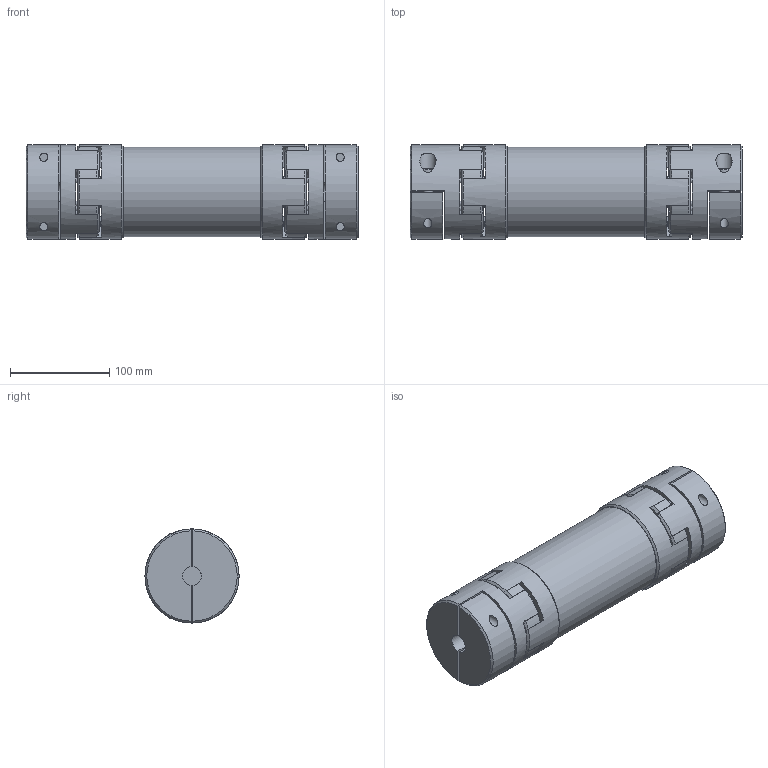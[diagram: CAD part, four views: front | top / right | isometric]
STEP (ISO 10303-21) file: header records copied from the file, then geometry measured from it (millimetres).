
FILE_DESCRIPTION(/* description */ ('Zwischenwellenkupplung AL42'),/* implementation_level */ '2;1');
FILE_NAME(/* name */ 'ALRP42-L265-19-KL-19-KL',/* time_stamp */ '2024-01-05T15:38:19+01:00',/* author */ ('License CC BY-ND 4.0'),/* organization */ ('CADENAS'),/* preprocessor_version */ 'ST-DEVELOPER v20',/* originating_system */ 'Autodesk Inventor 2024',/* authorisation */ ' ');
FILE_SCHEMA (('AUTOMOTIVE_DESIGN { 1 0 10303 214 3 1 1 }'));
Length unit declared in the file: millimetre
Products named in the file (1): Zwischenwellenkupplung AL42
Bounding box: 335 x 95 x 95 mm (x, y, z)
Volume: 1693233.4 mm3; surface area: 278784.2 mm2
Topology: 11 solids, 11 shells, 402 faces, 978 edges, 636 vertices
Faces by surface type: cylinder 178, plane 120, cone 96, torus 8
Full cylindrical faces by diameter (mm): 4.385 x24, 7.015 x4, 8.376 x4, 10 x4, 11 x4, 16 x4, 16.6 x4, 19 x4, 44 x4, 80 x1, 90 x1, 95 x4
Entity records: 12487 total; most frequent: CARTESIAN_POINT 2746, DIRECTION 2170, ORIENTED_EDGE 1956, EDGE_CURVE 978, AXIS2_PLACEMENT_3D 940, VERTEX_POINT 636, CIRCLE 536, EDGE_LOOP 462
